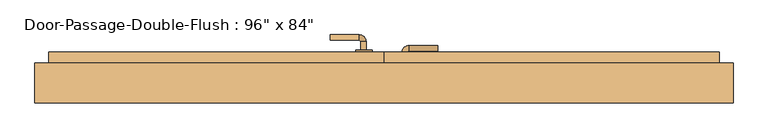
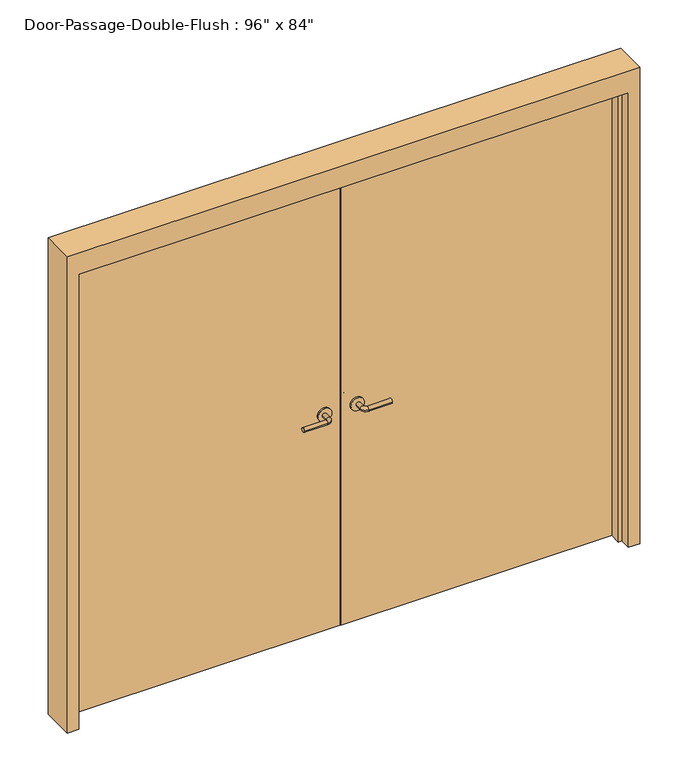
"""IFC4 building model written with IfcOpenShell, lengths in millimetres: door geometry."""

from ifc_helpers import new_model, si_unit, point, frame, frame_2d, origin, origin_with_axes, place, context, project, spatial, polyline, circle_curve, ellipse_curve, trimmed, segment, composite_curve, outline, extrude, faceted_brep, source, transform, mapped, element, save
from ifc_brep_helpers import plane_surface, cylinder_surface, revolved_surface, advanced_brep


def door_f421410e(model_context):
    return source(origin(), model_context, "Body", "SolidModel", [
        advanced_brep(
        [(-65.009375, -9.5875, 1016.0), (-85.009375, -9.5875, 1016.0), (-65.009375, -39.5875, 1016.0), (-85.009375, -39.5875, 1016.0), (-90.009375, -44.5875, 1016.0), (-90.009375, -64.5875, 1016.0), (-195.009375, -64.5875, 1016.0), (-195.009375, -44.5875, 1016.0)],
        [
            (0, 1, circle_curve(frame((-75.009375, -9.5875, 1016.0), z_axis=(0.0, 1.0, 0.0), x_axis=(-1.0, 0.0, 0.0)), 10.0)),
            (1, 0, circle_curve(frame((-75.009375, -9.5875, 1016.0), z_axis=(0.0, 1.0, 0.0), x_axis=(-1.0, 0.0, 0.0)), 10.0)),
            (0, 2),
            (2, 3, circle_curve(frame((-75.009375, -39.5875, 1016.0), z_axis=(0.0, 1.0, 0.0), x_axis=(-1.0, 0.0, 0.0)), 10.0)),
            (3, 1),
            (3, 2, circle_curve(frame((-75.009375, -39.5875, 1016.0), z_axis=(0.0, 1.0, 0.0), x_axis=(-1.0, 0.0, 0.0)), 10.0)),
            (4, 3, circle_curve(frame((-90.009375, -39.5875, 1016.0), z_axis=(0.0, 0.0, 1.0), x_axis=(1.0, 0.0, 0.0)), 5.0)),
            (2, 5, circle_curve(frame((-90.009375, -39.5875, 1016.0), z_axis=(0.0, 0.0, -1.0), x_axis=(1.0, 0.0, 0.0)), 25.0)),
            (5, 4, circle_curve(frame((-90.009375, -54.5875, 1016.0), z_axis=(1.0, 0.0, 0.0), x_axis=(0.0, 1.0, 0.0)), 10.0)),
            (4, 5, circle_curve(frame((-90.009375, -54.5875, 1016.0), z_axis=(1.0, 0.0, 0.0), x_axis=(0.0, 1.0, 0.0)), 10.0)),
            (6, 7, circle_curve(frame((-195.009375, -54.5875, 1016.0), z_axis=(-1.0, 0.0, 0.0), x_axis=(0.0, 1.0, 0.0)), 10.0)),
            (7, 6, circle_curve(frame((-195.009375, -54.5875, 1016.0), z_axis=(-1.0, 0.0, 0.0), x_axis=(0.0, 1.0, 0.0)), 10.0)),
            (5, 6),
            (7, 4),
        ],
        [
            plane_surface(frame((-75.009375, -9.5875, 1016.0), z_axis=(0.0, 1.0, 0.0), x_axis=(0.0, 0.0, 1.0))),
            cylinder_surface(frame((-75.009375, -9.5875, 1016.0), z_axis=(0.0, 1.0, 0.0), x_axis=(-1.0, 0.0, 0.0)), 10.0),
            revolved_surface(trimmed(ellipse_curve(frame((-75.009375, -39.5875, 1016.0), z_axis=(0.0, 1.0, 0.0), x_axis=(-1.0, 0.0, 0.0)), 10.0, 10.0), [point((-65.009375, -39.5875, 1016.0))], [point((-85.009375, -39.5875, 1016.0))], True, "CARTESIAN"), (-90.009375, -39.5875, 1016.0), (0.0, 0.0, -1.0)),
            revolved_surface(trimmed(ellipse_curve(frame((-75.009375, -39.5875, 1016.0), z_axis=(0.0, 1.0, 0.0), x_axis=(-1.0, 0.0, 0.0)), 10.0, 10.0), [point((-85.009375, -39.5875, 1016.0))], [point((-65.009375, -39.5875, 1016.0))], True, "CARTESIAN"), (-90.009375, -39.5875, 1016.0), (0.0, 0.0, -1.0)),
            plane_surface(frame((-195.009375, -54.5875, 1016.0), z_axis=(-1.0, 0.0, 0.0), x_axis=(0.0, 0.0, 1.0))),
            cylinder_surface(frame((-90.009375, -54.5875, 1016.0), z_axis=(1.0, 0.0, 0.0), x_axis=(0.0, 1.0, 0.0)), 10.0),
        ],
        [
            (0, [[1, 2]]),
            (1, [[-1, 3, 4, 5]]),
            (1, [[-2, -5, 6, -3]]),
            (2, [[7, -4, 8, 9]]),
            (3, [[-8, -6, -7, 10]]),
            (4, [[11, 12]]),
            (5, [[-9, 13, -12, 14]]),
            (5, [[-10, -14, -11, -13]]),
        ],
    ),
        extrude(outline(composite_curve([segment(trimmed(circle_curve(frame_2d((1016.0, -72.509375)), 30.0), [point((1016.0, -42.509375))], [point((1016.0, -102.509375))], False, "CARTESIAN"), True, "CONTINUOUS"), segment(trimmed(circle_curve(frame_2d((1016.0, -72.509375)), 30.0), [point((1016.0, -102.509375))], [point((1016.0, -42.509375))], False, "CARTESIAN"), True, "CONTINUOUS")], self_intersect=False)), frame((0.0, -9.5875, 0.0), z_axis=(0.0, 1.0, 0.0), x_axis=(0.0, 0.0, 1.0)), (0.0, 0.0, 1.0), 8.0),
        advanced_brep(
        [(-65.009375, 90.55, 1016.0), (-85.009375, 90.55, 1016.0), (-85.009375, 120.55, 1016.0), (-65.009375, 120.55, 1016.0), (-90.009375, 125.55, 1016.0), (-90.009375, 145.55, 1016.0), (-195.009375, 145.55, 1016.0), (-195.009375, 125.55, 1016.0)],
        [
            (0, 1, circle_curve(frame((-75.009375, 90.55, 1016.0), z_axis=(0.0, -1.0, 0.0), x_axis=(-1.0, 0.0, 0.0)), 10.0)),
            (1, 0, circle_curve(frame((-75.009375, 90.55, 1016.0), z_axis=(0.0, -1.0, 0.0), x_axis=(-1.0, 0.0, 0.0)), 10.0)),
            (1, 2),
            (2, 3, circle_curve(frame((-75.009375, 120.55, 1016.0), z_axis=(0.0, -1.0, 0.0), x_axis=(-1.0, 0.0, 0.0)), 10.0)),
            (3, 0),
            (3, 2, circle_curve(frame((-75.009375, 120.55, 1016.0), z_axis=(0.0, -1.0, 0.0), x_axis=(-1.0, 0.0, 0.0)), 10.0)),
            (4, 5, circle_curve(frame((-90.009375, 135.55, 1016.0), z_axis=(1.0, 0.0, 0.0), x_axis=(0.0, -1.0, 0.0)), 10.0)),
            (5, 3, circle_curve(frame((-90.009375, 120.55, 1016.0), z_axis=(0.0, 0.0, -1.0), x_axis=(1.0, 0.0, 0.0)), 25.0)),
            (2, 4, circle_curve(frame((-90.009375, 120.55, 1016.0), z_axis=(0.0, 0.0, 1.0), x_axis=(1.0, 0.0, 0.0)), 5.0)),
            (5, 4, circle_curve(frame((-90.009375, 135.55, 1016.0), z_axis=(1.0, 0.0, 0.0), x_axis=(0.0, -1.0, 0.0)), 10.0)),
            (6, 7, circle_curve(frame((-195.009375, 135.55, 1016.0), z_axis=(-1.0, 0.0, 0.0), x_axis=(0.0, -1.0, 0.0)), 10.0)),
            (7, 6, circle_curve(frame((-195.009375, 135.55, 1016.0), z_axis=(-1.0, 0.0, 0.0), x_axis=(0.0, -1.0, 0.0)), 10.0)),
            (4, 7),
            (6, 5),
        ],
        [
            plane_surface(frame((-75.009375, 90.55, 1016.0), z_axis=(0.0, -1.0, 0.0), x_axis=(0.0, 0.0, 1.0))),
            cylinder_surface(frame((-75.009375, 90.55, 1016.0), z_axis=(0.0, -1.0, 0.0), x_axis=(-1.0, 0.0, 0.0)), 10.0),
            revolved_surface(trimmed(ellipse_curve(frame((-75.009375, 120.55, 1016.0), z_axis=(0.0, 1.0, 0.0), x_axis=(-1.0, 0.0, 0.0)), 10.0, 10.0), [point((-65.009375, 120.55, 1016.0))], [point((-85.009375, 120.55, 1016.0))], True, "CARTESIAN"), (-90.009375, 120.55, 1016.0), (0.0, 0.0, -1.0)),
            revolved_surface(trimmed(ellipse_curve(frame((-75.009375, 120.55, 1016.0), z_axis=(0.0, 1.0, 0.0), x_axis=(-1.0, 0.0, 0.0)), 10.0, 10.0), [point((-85.009375, 120.55, 1016.0))], [point((-65.009375, 120.55, 1016.0))], True, "CARTESIAN"), (-90.009375, 120.55, 1016.0), (0.0, 0.0, -1.0)),
            plane_surface(frame((-195.009375, 135.55, 1016.0), z_axis=(-1.0, 0.0, 0.0), x_axis=(0.0, 0.0, 1.0))),
            cylinder_surface(frame((-90.009375, 135.55, 1016.0), z_axis=(1.0, 0.0, 0.0), x_axis=(0.0, -1.0, 0.0)), 10.0),
        ],
        [
            (0, [[1, 2]]),
            (1, [[3, 4, 5, -2]]),
            (1, [[-5, 6, -3, -1]]),
            (2, [[7, 8, -4, 9]]),
            (3, [[10, -9, -6, -8]]),
            (4, [[11, 12]]),
            (5, [[13, -11, 14, -7]]),
            (5, [[-14, -12, -13, -10]]),
        ],
    ),
        extrude(outline(composite_curve([segment(trimmed(circle_curve(frame_2d((1016.0, -72.509375)), 30.0), [point((1016.0, -42.509375))], [point((1016.0, -102.509375))], False, "CARTESIAN"), True, "CONTINUOUS"), segment(trimmed(circle_curve(frame_2d((1016.0, -72.509375)), 30.0), [point((1016.0, -102.509375))], [point((1016.0, -42.509375))], False, "CARTESIAN"), True, "CONTINUOUS")], self_intersect=False)), frame((0.0, 82.55, 0.0), z_axis=(0.0, 1.0, 0.0), x_axis=(0.0, 0.0, 1.0)), (0.0, 0.0, 1.0), 8.0),
        advanced_brep(
        [(65.009375, -9.5875, 1016.0), (85.009375, -9.5875, 1016.0), (85.009375, -39.5875, 1016.0), (65.009375, -39.5875, 1016.0), (90.009375, -44.5875, 1016.0), (90.009375, -64.5875, 1016.0), (195.009375, -64.5875, 1016.0), (195.009375, -44.5875, 1016.0)],
        [
            (0, 1, circle_curve(frame((75.009375, -9.5875, 1016.0), z_axis=(0.0, 1.0, 0.0), x_axis=(1.0, 0.0, 0.0)), 10.0)),
            (1, 0, circle_curve(frame((75.009375, -9.5875, 1016.0), z_axis=(0.0, 1.0, 0.0), x_axis=(1.0, 0.0, 0.0)), 10.0)),
            (1, 2),
            (2, 3, circle_curve(frame((75.009375, -39.5875, 1016.0), z_axis=(0.0, 1.0, 0.0), x_axis=(1.0, 0.0, 0.0)), 10.0)),
            (3, 0),
            (3, 2, circle_curve(frame((75.009375, -39.5875, 1016.0), z_axis=(0.0, 1.0, 0.0), x_axis=(1.0, 0.0, 0.0)), 10.0)),
            (4, 5, circle_curve(frame((90.009375, -54.5875, 1016.0), z_axis=(-1.0, 0.0, 0.0), x_axis=(0.0, 1.0, 0.0)), 10.0)),
            (5, 3, circle_curve(frame((90.009375, -39.5875, 1016.0), z_axis=(0.0, 0.0, -1.0), x_axis=(-1.0, 0.0, 0.0)), 25.0)),
            (2, 4, circle_curve(frame((90.009375, -39.5875, 1016.0), z_axis=(0.0, 0.0, 1.0), x_axis=(-1.0, 0.0, 0.0)), 5.0)),
            (5, 4, circle_curve(frame((90.009375, -54.5875, 1016.0), z_axis=(-1.0, 0.0, 0.0), x_axis=(0.0, 1.0, 0.0)), 10.0)),
            (6, 7, circle_curve(frame((195.009375, -54.5875, 1016.0), z_axis=(1.0, 0.0, 0.0), x_axis=(0.0, 1.0, 0.0)), 10.0)),
            (7, 6, circle_curve(frame((195.009375, -54.5875, 1016.0), z_axis=(1.0, 0.0, 0.0), x_axis=(0.0, 1.0, 0.0)), 10.0)),
            (4, 7),
            (6, 5),
        ],
        [
            plane_surface(frame((75.009375, -9.5875, 1016.0), z_axis=(0.0, 1.0, 0.0), x_axis=(0.0, 0.0, 1.0))),
            cylinder_surface(frame((75.009375, -9.5875, 1016.0), z_axis=(0.0, 1.0, 0.0), x_axis=(1.0, 0.0, 0.0)), 10.0),
            revolved_surface(trimmed(ellipse_curve(frame((75.009375, -39.5875, 1016.0), z_axis=(0.0, -1.0, 0.0), x_axis=(1.0, 0.0, 0.0)), 10.0, 10.0), [point((65.009375, -39.5875, 1016.0))], [point((85.009375, -39.5875, 1016.0))], True, "CARTESIAN"), (90.009375, -39.5875, 1016.0), (0.0, 0.0, -1.0)),
            revolved_surface(trimmed(ellipse_curve(frame((75.009375, -39.5875, 1016.0), z_axis=(0.0, -1.0, 0.0), x_axis=(1.0, 0.0, 0.0)), 10.0, 10.0), [point((85.009375, -39.5875, 1016.0))], [point((65.009375, -39.5875, 1016.0))], True, "CARTESIAN"), (90.009375, -39.5875, 1016.0), (0.0, 0.0, -1.0)),
            plane_surface(frame((195.009375, -54.5875, 1016.0), z_axis=(1.0, 0.0, 0.0), x_axis=(0.0, 0.0, 1.0))),
            cylinder_surface(frame((90.009375, -54.5875, 1016.0), z_axis=(-1.0, 0.0, 0.0), x_axis=(0.0, 1.0, 0.0)), 10.0),
        ],
        [
            (0, [[1, 2]]),
            (1, [[3, 4, 5, -2]]),
            (1, [[-5, 6, -3, -1]]),
            (2, [[7, 8, -4, 9]]),
            (3, [[10, -9, -6, -8]]),
            (4, [[11, 12]]),
            (5, [[13, -11, 14, -7]]),
            (5, [[-14, -12, -13, -10]]),
        ],
    ),
        extrude(outline(composite_curve([segment(trimmed(circle_curve(frame_2d((1016.0, 72.509375)), 30.0), [point((1016.0, 42.509375))], [point((1016.0, 102.509375))], False, "CARTESIAN"), True, "CONTINUOUS"), segment(trimmed(circle_curve(frame_2d((1016.0, 72.509375)), 30.0), [point((1016.0, 102.509375))], [point((1016.0, 42.509375))], False, "CARTESIAN"), True, "CONTINUOUS")], self_intersect=False)), frame((0.0, -9.5875, 0.0), z_axis=(0.0, 1.0, 0.0), x_axis=(0.0, 0.0, 1.0)), (0.0, 0.0, 1.0), 8.0),
        advanced_brep(
        [(65.009375, 50.8625, 1016.0), (85.009375, 50.8625, 1016.0), (65.009375, 80.8625, 1016.0), (85.009375, 80.8625, 1016.0), (90.009375, 85.8625, 1016.0), (90.009375, 105.8625, 1016.0), (195.009375, 105.8625, 1016.0), (195.009375, 85.8625, 1016.0)],
        [
            (0, 1, circle_curve(frame((75.009375, 50.8625, 1016.0), z_axis=(0.0, -1.0, 0.0), x_axis=(1.0, 0.0, 0.0)), 10.0)),
            (1, 0, circle_curve(frame((75.009375, 50.8625, 1016.0), z_axis=(0.0, -1.0, 0.0), x_axis=(1.0, 0.0, 0.0)), 10.0)),
            (0, 2),
            (2, 3, circle_curve(frame((75.009375, 80.8625, 1016.0), z_axis=(0.0, -1.0, 0.0), x_axis=(1.0, 0.0, 0.0)), 10.0)),
            (3, 1),
            (3, 2, circle_curve(frame((75.009375, 80.8625, 1016.0), z_axis=(0.0, -1.0, 0.0), x_axis=(1.0, 0.0, 0.0)), 10.0)),
            (4, 3, circle_curve(frame((90.009375, 80.8625, 1016.0), z_axis=(0.0, 0.0, 1.0), x_axis=(-1.0, 0.0, 0.0)), 5.0)),
            (2, 5, circle_curve(frame((90.009375, 80.8625, 1016.0), z_axis=(0.0, 0.0, -1.0), x_axis=(-1.0, 0.0, 0.0)), 25.0)),
            (5, 4, circle_curve(frame((90.009375, 95.8625, 1016.0), z_axis=(-1.0, 0.0, 0.0), x_axis=(0.0, -1.0, 0.0)), 10.0)),
            (4, 5, circle_curve(frame((90.009375, 95.8625, 1016.0), z_axis=(-1.0, 0.0, 0.0), x_axis=(0.0, -1.0, 0.0)), 10.0)),
            (6, 7, circle_curve(frame((195.009375, 95.8625, 1016.0), z_axis=(1.0, 0.0, 0.0), x_axis=(0.0, -1.0, 0.0)), 10.0)),
            (7, 6, circle_curve(frame((195.009375, 95.8625, 1016.0), z_axis=(1.0, 0.0, 0.0), x_axis=(0.0, -1.0, 0.0)), 10.0)),
            (5, 6),
            (7, 4),
        ],
        [
            plane_surface(frame((75.009375, 50.8625, 1016.0), z_axis=(0.0, -1.0, 0.0), x_axis=(0.0, 0.0, 1.0))),
            cylinder_surface(frame((75.009375, 50.8625, 1016.0), z_axis=(0.0, -1.0, 0.0), x_axis=(1.0, 0.0, 0.0)), 10.0),
            revolved_surface(trimmed(ellipse_curve(frame((75.009375, 80.8625, 1016.0), z_axis=(0.0, -1.0, 0.0), x_axis=(1.0, 0.0, 0.0)), 10.0, 10.0), [point((65.009375, 80.8625, 1016.0))], [point((85.009375, 80.8625, 1016.0))], True, "CARTESIAN"), (90.009375, 80.8625, 1016.0), (0.0, 0.0, -1.0)),
            revolved_surface(trimmed(ellipse_curve(frame((75.009375, 80.8625, 1016.0), z_axis=(0.0, -1.0, 0.0), x_axis=(1.0, 0.0, 0.0)), 10.0, 10.0), [point((85.009375, 80.8625, 1016.0))], [point((65.009375, 80.8625, 1016.0))], True, "CARTESIAN"), (90.009375, 80.8625, 1016.0), (0.0, 0.0, -1.0)),
            plane_surface(frame((195.009375, 95.8625, 1016.0), z_axis=(1.0, 0.0, 0.0), x_axis=(0.0, 0.0, 1.0))),
            cylinder_surface(frame((90.009375, 95.8625, 1016.0), z_axis=(-1.0, 0.0, 0.0), x_axis=(0.0, -1.0, 0.0)), 10.0),
        ],
        [
            (0, [[1, 2]]),
            (1, [[-1, 3, 4, 5]]),
            (1, [[-2, -5, 6, -3]]),
            (2, [[7, -4, 8, 9]]),
            (3, [[-8, -6, -7, 10]]),
            (4, [[11, 12]]),
            (5, [[-9, 13, -12, 14]]),
            (5, [[-10, -14, -11, -13]]),
        ],
    ),
        extrude(outline(composite_curve([segment(trimmed(circle_curve(frame_2d((1016.0, 72.509375)), 30.0), [point((1016.0, 42.509375))], [point((1016.0, 102.509375))], False, "CARTESIAN"), True, "CONTINUOUS"), segment(trimmed(circle_curve(frame_2d((1016.0, 72.509375)), 30.0), [point((1016.0, 102.509375))], [point((1016.0, 42.509375))], False, "CARTESIAN"), True, "CONTINUOUS")], self_intersect=False)), frame((0.0, 42.8625, 0.0), z_axis=(0.0, 1.0, 0.0), x_axis=(0.0, 0.0, 1.0)), (0.0, 0.0, 1.0), 8.0),
        faceted_brep([(1219.2, -6.35, 0.0), (1219.2, 42.8625, 0.0), (1270.0, 42.8625, 0.0), (1270.0, -103.1875, 0.0), (1219.2, -103.1875, 0.0), (1219.2, -53.975, 0.0), (1203.325, -53.975, 0.0), (1203.325, -6.35, 0.0), (1219.2, -6.35, 2133.6), (1219.2, 42.8625, 2133.6), (-1219.2, 42.8625, 2133.6), (-1219.2, 42.8625, 0.0), (-1270.0, 42.8625, 0.0), (-1270.0, 42.8625, 2235.2), (1270.0, 42.8625, 2235.2), (1270.0, -103.1875, 2235.2), (-1270.0, -103.1875, 2235.2), (-1270.0, -103.1875, 0.0), (-1219.2, -103.1875, 0.0), (-1219.2, -103.1875, 2133.6), (1219.2, -103.1875, 2133.6), (1219.2, -53.975, 2133.6), (-1219.2, -53.975, 2133.6), (-1219.2, -53.975, 0.0), (-1203.325, -53.975, 0.0), (-1203.325, -53.975, 2117.725), (1203.325, -53.975, 2117.725), (1203.325, -6.35, 2117.725), (-1203.325, -6.35, 2117.725), (-1203.325, -6.35, 0.0), (-1219.2, -6.35, 0.0), (-1219.2, -6.35, 2133.6)], [[[0, 1, 2, 3, 4, 5, 6, 7]], [[1, 0, 8, 9]], [[2, 1, 9, 10, 11, 12, 13, 14]], [[3, 2, 14, 15]], [[4, 3, 15, 16, 17, 18, 19, 20]], [[5, 4, 20, 21]], [[6, 5, 21, 22, 23, 24, 25, 26]], [[7, 6, 26, 27]], [[0, 7, 27, 28, 29, 30, 31, 8]], [[9, 8, 31, 10]], [[20, 19, 22, 21]], [[26, 25, 28, 27]], [[12, 11, 30, 29, 24, 23, 18, 17]], [[11, 10, 31, 30]], [[13, 12, 17, 16]], [[19, 18, 23, 22]], [[25, 24, 29, 28]], [[15, 14, 13, 16]]]),
        extrude(outline(polyline([(1219.2, -1.5875), (1.5875, -1.5875), (1.5875, 82.55), (1219.2, 82.55), (1219.2, -1.5875)])), origin_with_axes(), (0.0, 0.0, 1.0), 2133.6),
        extrude(outline(polyline([(-1.5875, -1.5875), (-1219.2, -1.5875), (-1219.2, 82.55), (-1.5875, 82.55), (-1.5875, -1.5875)])), origin_with_axes(), (0.0, 0.0, 1.0), 2133.6),
    ])


if __name__ == "__main__":
    model = new_model("IFC4")
    model_context = context("Model", 3, world=origin())
    ifc_project = project(units=[si_unit("LENGTHUNIT", "METRE", prefix="MILLI")], contexts=[model_context])
    site = spatial("IfcSite", under=ifc_project)
    building = spatial("IfcBuilding", under=site)
    placement = place(None, origin())
    door_shape = door_f421410e(model_context)
    element("IfcDoor", 1, ObjectType="Door-Passage-Double-Flush : 96\" x 84\"", at=placement, inside=building, context=model_context, shape_type="MappedRepresentation", body=[
        mapped(door_shape, transform((0.0, 0.0, 0.0), x_axis=(1.0, 0.0, 0.0), y_axis=(0.0, 1.0, 0.0), z_axis=(0.0, 0.0, 1.0))),
    ])
    save(model, "model.ifc")
